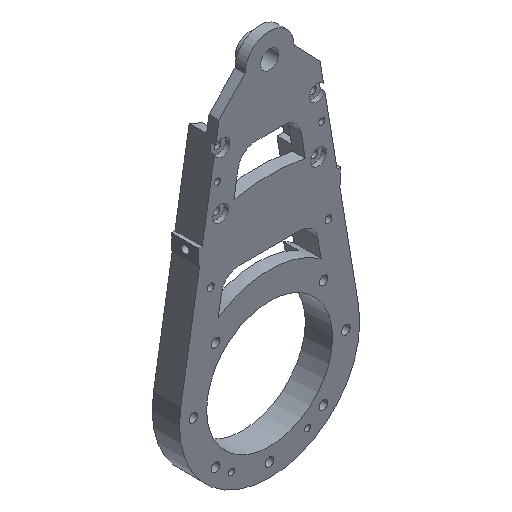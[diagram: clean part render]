
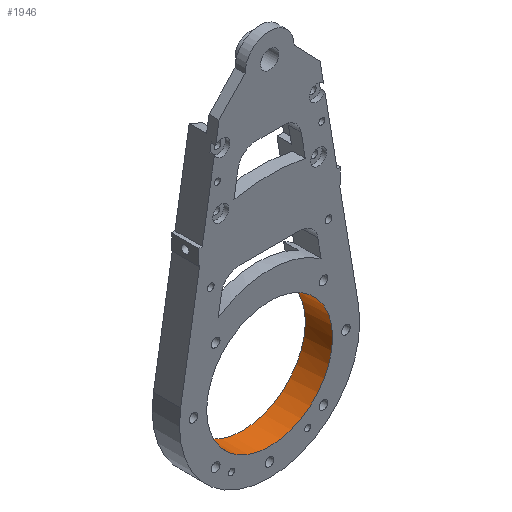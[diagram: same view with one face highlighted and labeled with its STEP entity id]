
A CAD part, isometric view. The second image highlights one B-rep face of the part: STEP entity #1946.
In plain terms, the highlighted cylindrical face has radius 34.677 mm (diameter 69.354 mm), a full revolution.
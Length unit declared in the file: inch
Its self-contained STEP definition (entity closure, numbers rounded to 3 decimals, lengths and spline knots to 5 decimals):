
#21=CYLINDRICAL_SURFACE('',#2126,1.36523);
#127=FACE_OUTER_BOUND('',#260,.T.);
#260=EDGE_LOOP('',(#1568,#1569,#1570,#1571,#1572,#1573,#1574,#1575));
#480=LINE('',#3194,#680);
#481=LINE('',#3195,#681);
#482=LINE('',#3196,#682);
#680=VECTOR('',#2559,1.36523);
#681=VECTOR('',#2560,0.31496);
#682=VECTOR('',#2561,0.31496);
#738=CIRCLE('',#2036,1.36523);
#773=CIRCLE('',#2076,1.36523);
#795=CIRCLE('',#2112,1.36523);
#796=CIRCLE('',#2113,1.36523);
#857=VERTEX_POINT('',#2857);
#858=VERTEX_POINT('',#2858);
#934=VERTEX_POINT('',#3028);
#977=VERTEX_POINT('',#3141);
#978=VERTEX_POINT('',#3143);
#979=VERTEX_POINT('',#3145);
#1047=EDGE_CURVE('',#857,#858,#738,.T.);
#1136=EDGE_CURVE('',#934,#934,#773,.T.);
#1193=EDGE_CURVE('',#978,#977,#795,.T.);
#1194=EDGE_CURVE('',#979,#978,#796,.T.);
#1222=EDGE_CURVE('',#978,#934,#480,.T.);
#1223=EDGE_CURVE('',#977,#858,#481,.F.);
#1224=EDGE_CURVE('',#857,#979,#482,.T.);
#1568=ORIENTED_EDGE('',*,*,#1194,.T.);
#1569=ORIENTED_EDGE('',*,*,#1222,.T.);
#1570=ORIENTED_EDGE('',*,*,#1136,.F.);
#1571=ORIENTED_EDGE('',*,*,#1222,.F.);
#1572=ORIENTED_EDGE('',*,*,#1193,.T.);
#1573=ORIENTED_EDGE('',*,*,#1223,.T.);
#1574=ORIENTED_EDGE('',*,*,#1047,.F.);
#1575=ORIENTED_EDGE('',*,*,#1224,.T.);
#1946=ADVANCED_FACE('',(#127),#21,.F.);
#2036=AXIS2_PLACEMENT_3D('',#2859,#2266,#2267);
#2076=AXIS2_PLACEMENT_3D('',#3029,#2400,#2401);
#2112=AXIS2_PLACEMENT_3D('',#3144,#2507,#2508);
#2113=AXIS2_PLACEMENT_3D('',#3146,#2509,#2510);
#2126=AXIS2_PLACEMENT_3D('',#3193,#2557,#2558);
#2266=DIRECTION('center_axis',(0.,-1.,0.));
#2267=DIRECTION('ref_axis',(0.,0.,1.));
#2400=DIRECTION('center_axis',(0.,1.,0.));
#2401=DIRECTION('ref_axis',(0.,0.,1.));
#2507=DIRECTION('center_axis',(0.,1.,0.));
#2508=DIRECTION('ref_axis',(0.,0.,1.));
#2509=DIRECTION('center_axis',(0.,1.,0.));
#2510=DIRECTION('ref_axis',(0.,0.,1.));
#2557=DIRECTION('center_axis',(0.,-1.,0.));
#2558=DIRECTION('ref_axis',(0.,0.,-1.));
#2559=DIRECTION('',(0.,-1.,0.));
#2560=DIRECTION('',(0.,-1.,0.));
#2561=DIRECTION('',(0.,-1.,0.));
#2857=CARTESIAN_POINT('',(-1.08151,0.59055,0.83318));
#2858=CARTESIAN_POINT('',(1.08151,0.59055,0.83318));
#2859=CARTESIAN_POINT('Origin',(0.,0.59055,0.));
#3028=CARTESIAN_POINT('',(0.,0.,1.36523));
#3029=CARTESIAN_POINT('Origin',(0.,0.,0.));
#3141=CARTESIAN_POINT('',(1.08151,0.27559,0.83318));
#3143=CARTESIAN_POINT('',(0.,0.27559,1.36523));
#3144=CARTESIAN_POINT('Origin',(0.,0.27559,0.));
#3145=CARTESIAN_POINT('',(-1.08151,0.27559,0.83318));
#3146=CARTESIAN_POINT('Origin',(0.,0.27559,0.));
#3193=CARTESIAN_POINT('Origin',(0.,0.27559,0.));
#3194=CARTESIAN_POINT('',(0.,0.27559,1.36523));
#3195=CARTESIAN_POINT('',(1.08151,0.59055,0.83318));
#3196=CARTESIAN_POINT('',(-1.08151,0.59055,0.83318));
